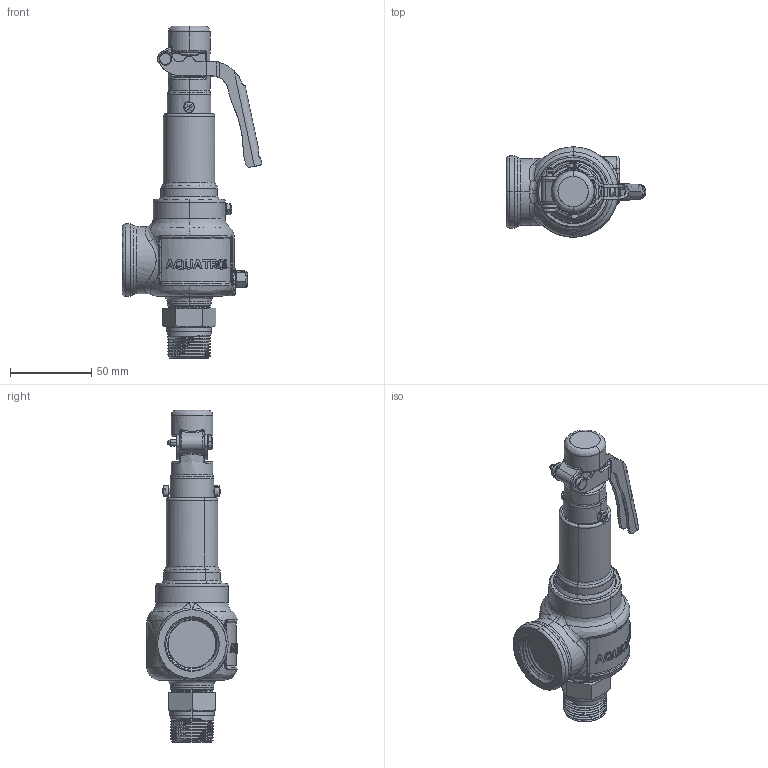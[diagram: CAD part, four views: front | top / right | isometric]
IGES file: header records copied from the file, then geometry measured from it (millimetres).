
Start section: SolidWorks IGES file using NURBS representation for surfaces
Global section: file name: C:\Design\Design\Aquatrol\Customer 3D Files\Series 740 Customer Files\D Orifice\Customer\Iges Files\Series 740 D 750 x 1000 Open Lever.IGS; native system: SolidWorks 2015; preprocessor: SolidWorks 2015; author: Karl; date: 150515.081128; units: inch
Bounding box: 86.11 x 55.56 x 204.47 mm (x, y, z)
Surface area: 37584 mm2 (no closed solid volume)
Topology: 0 solids, 0 shells, 550 faces, 8444 edges, 8444 vertices
Faces by surface type: bspline 550
